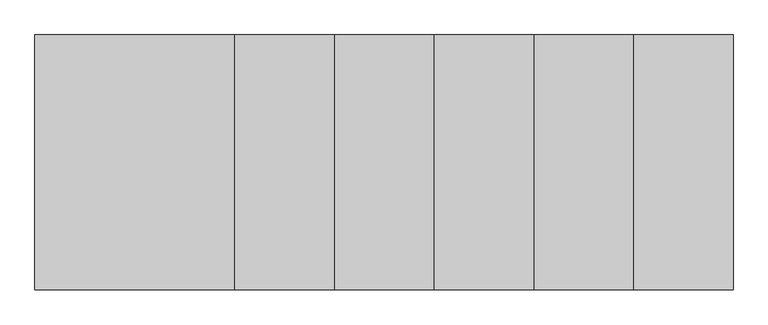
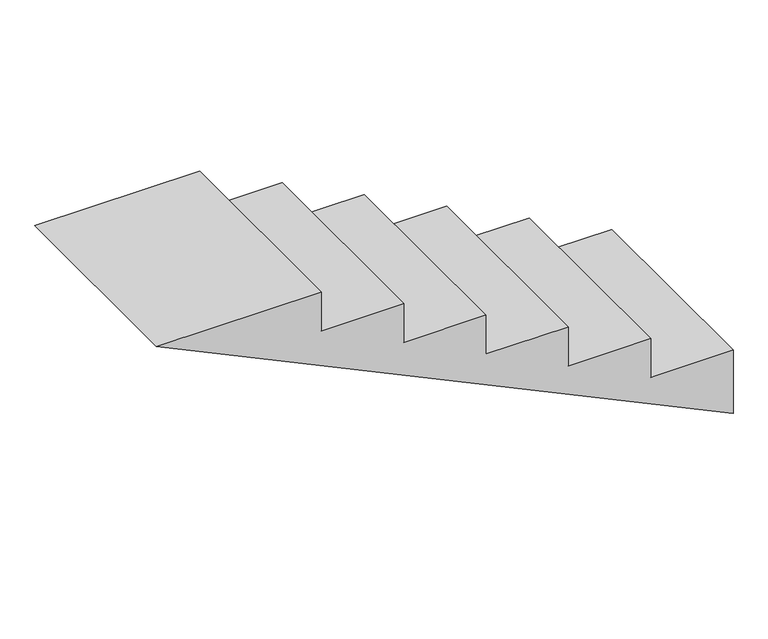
"""IFC4 building model written with IfcOpenShell, lengths in millimetres: fastener geometry, TQS - Escada Família5 : TQS - Escada Família5."""

from ifc_helpers import new_model, si_unit, frame, origin, place, context, project, spatial, polyline, outline, extrude, source, transform, mapped, element, save


def fastener_22b7b758(model_context):
    return source(origin(), model_context, "Body", "SweptSolid", [
        extrude(outline(polyline([(3750.0000954, 2600.0), (4200.0000954, 2600.0), (4200.0000954, 800.0), (1220.4915028, 7100.0), (1950.0000954, 7100.0), (1950.0000954, 6200.0), (2400.0000954, 6200.0), (2400.0000954, 5300.0), (2850.0000954, 5300.0), (2850.0000954, 4400.0), (3300.0000954, 4400.0), (3300.0000954, 3500.0), (3750.0000954, 3500.0), (3750.0000954, 2600.0)])), frame((0.0, 0.0, 0.0), z_axis=(0.0, 1.0, 0.0), x_axis=(0.0, 0.0, 1.0)), (0.0, 0.0, 1.0), 2300.0),
    ])


if __name__ == "__main__":
    model = new_model("IFC4")
    model_context = context("Model", 3, world=origin())
    ifc_project = project(units=[si_unit("LENGTHUNIT", "METRE", prefix="MILLI")], contexts=[model_context])
    site = spatial("IfcSite", under=ifc_project)
    building = spatial("IfcBuilding", under=site)
    placement = place(None, origin())
    fastener_shape = fastener_22b7b758(model_context)
    element("IfcFastener", 1, ObjectType="TQS - Escada Família5 : TQS - Escada Família5", at=placement, inside=building, context=model_context, shape_type="MappedRepresentation", body=[
        mapped(fastener_shape, transform((0.0, 0.0, 0.0), x_axis=(1.0, 0.0, 0.0), y_axis=(0.0, 1.0, 0.0), z_axis=(0.0, 0.0, 1.0))),
    ])
    save(model, "model.ifc")
